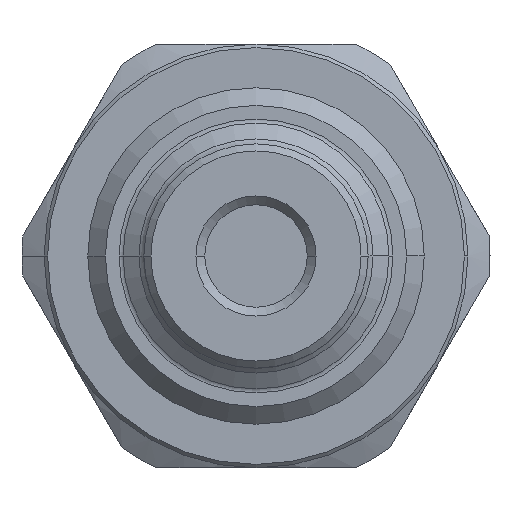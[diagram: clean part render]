
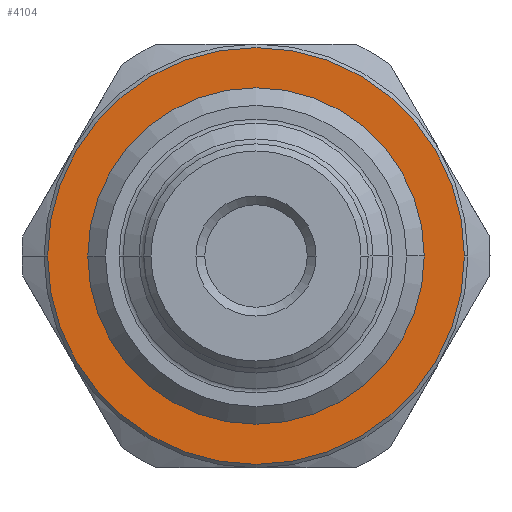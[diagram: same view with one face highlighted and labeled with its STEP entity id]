
A CAD part, left-side view. The second image highlights one B-rep face of the part: STEP entity #4104.
In plain terms, the highlighted planar face has unit normal (-1, 0, 0).
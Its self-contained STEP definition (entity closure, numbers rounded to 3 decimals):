
#504 = DIRECTION ( 'NONE',  ( 0., -1., 0. ) ) ;
#726 = DIRECTION ( 'NONE',  ( 0., -1., 0. ) ) ;
#742 = DIRECTION ( 'NONE',  ( -1., 0., 0. ) ) ;
#747 = CARTESIAN_POINT ( 'NONE',  ( 9.5, 0., 0. ) ) ;
#791 = EDGE_LOOP ( 'NONE', ( #3532, #3690 ) ) ;
#822 = EDGE_CURVE ( 'NONE', #3158, #4106, #3228, .T. ) ;
#853 = CARTESIAN_POINT ( 'NONE',  ( 9.5, 9.15, 0. ) ) ;
#861 = DIRECTION ( 'NONE',  ( 0., -1., 0. ) ) ;
#863 = DIRECTION ( 'NONE',  ( -1., 0., 0. ) ) ;
#894 = PLANE ( 'NONE',  #2678 ) ;
#953 = CARTESIAN_POINT ( 'NONE',  ( 9.5, -13.856, 0. ) ) ;
#1037 = CIRCLE ( 'NONE', #2907, 11.8 ) ;
#1101 = FACE_BOUND ( 'NONE', #1146, .T. ) ;
#1146 = EDGE_LOOP ( 'NONE', ( #3720, #1438 ) ) ;
#1207 = FACE_OUTER_BOUND ( 'NONE', #791, .T. ) ;
#1301 = AXIS2_PLACEMENT_3D ( 'NONE', #1907, #4017, #2980 ) ;
#1375 = VERTEX_POINT ( 'NONE', #3185 ) ;
#1438 = ORIENTED_EDGE ( 'NONE', *, *, #3062, .T. ) ;
#1733 = CARTESIAN_POINT ( 'NONE',  ( 9.5, -11.8, 0. ) ) ;
#1766 = CARTESIAN_POINT ( 'NONE',  ( 9.5, 0., 0. ) ) ;
#1818 = AXIS2_PLACEMENT_3D ( 'NONE', #2210, #2538, #504 ) ;
#1844 = DIRECTION ( 'NONE',  ( 1., 0., 0. ) ) ;
#1890 = CIRCLE ( 'NONE', #1301, 11.8 ) ;
#1907 = CARTESIAN_POINT ( 'NONE',  ( 9.5, 0., 0. ) ) ;
#1912 = CIRCLE ( 'NONE', #1818, 9.15 ) ;
#2193 = DIRECTION ( 'NONE',  ( 0., -1., 0. ) ) ;
#2210 = CARTESIAN_POINT ( 'NONE',  ( 9.5, 0., 0. ) ) ;
#2223 = VERTEX_POINT ( 'NONE', #1733 ) ;
#2538 = DIRECTION ( 'NONE',  ( 1., 0., 0. ) ) ;
#2678 = AXIS2_PLACEMENT_3D ( 'NONE', #953, #863, #861 ) ;
#2907 = AXIS2_PLACEMENT_3D ( 'NONE', #747, #742, #726 ) ;
#2980 = DIRECTION ( 'NONE',  ( 0., -1., 0. ) ) ;
#3062 = EDGE_CURVE ( 'NONE', #4106, #3158, #1912, .T. ) ;
#3064 = EDGE_CURVE ( 'NONE', #2223, #1375, #1890, .T. ) ;
#3158 = VERTEX_POINT ( 'NONE', #3247 ) ;
#3185 = CARTESIAN_POINT ( 'NONE',  ( 9.5, 11.8, 0. ) ) ;
#3228 = CIRCLE ( 'NONE', #3936, 9.15 ) ;
#3247 = CARTESIAN_POINT ( 'NONE',  ( 9.5, -9.15, 0. ) ) ;
#3532 = ORIENTED_EDGE ( 'NONE', *, *, #4151, .T. ) ;
#3690 = ORIENTED_EDGE ( 'NONE', *, *, #3064, .T. ) ;
#3720 = ORIENTED_EDGE ( 'NONE', *, *, #822, .T. ) ;
#3936 = AXIS2_PLACEMENT_3D ( 'NONE', #1766, #1844, #2193 ) ;
#4017 = DIRECTION ( 'NONE',  ( -1., 0., 0. ) ) ;
#4104 = ADVANCED_FACE ( 'NONE', ( #1101, #1207 ), #894, .T. ) ;
#4106 = VERTEX_POINT ( 'NONE', #853 ) ;
#4151 = EDGE_CURVE ( 'NONE', #1375, #2223, #1037, .T. ) ;
